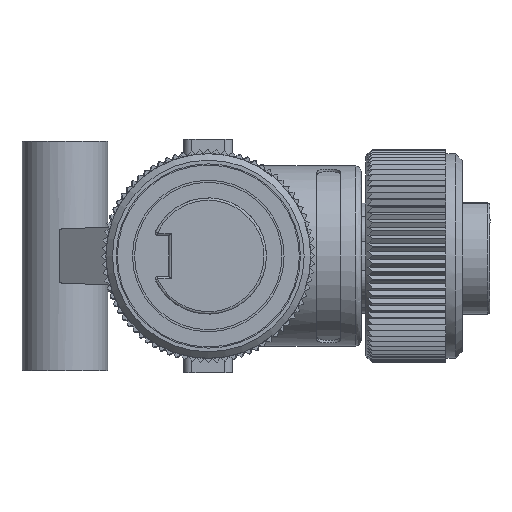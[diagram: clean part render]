
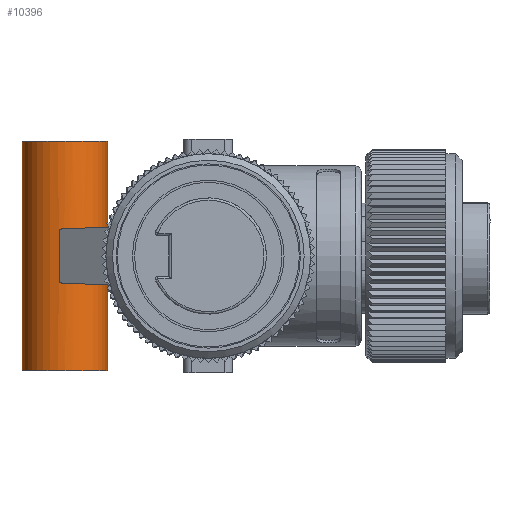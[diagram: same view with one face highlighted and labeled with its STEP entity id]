
A CAD part, left-side view. The second image highlights one B-rep face of the part: STEP entity #10396.
In plain terms, the highlighted cylindrical face has radius 5.25 mm (diameter 10.5 mm), a full revolution.
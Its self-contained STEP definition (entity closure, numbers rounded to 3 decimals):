
#433 = EDGE_CURVE ( 'NONE', #5069, #33572, #26969, .T. ) ;
#622 = LINE ( 'NONE', #12755, #17629 ) ;
#1157 = CIRCLE ( 'NONE', #11684, 5.25 ) ;
#1827 = CARTESIAN_POINT ( 'NONE',  ( -5.185, 34.623, -3.346 ) ) ;
#3115 = EDGE_CURVE ( 'NONE', #9155, #9155, #1157, .T. ) ;
#3656 = CARTESIAN_POINT ( 'NONE',  ( 5.343, 35.647, 3.32 ) ) ;
#3974 = CARTESIAN_POINT ( 'NONE',  ( 5.343, 35.647, -3.32 ) ) ;
#4315 = LINE ( 'NONE', #9709, #32376 ) ;
#4457 = CARTESIAN_POINT ( 'NONE',  ( -4.739, 33.687, -3.364 ) ) ;
#4586 = CARTESIAN_POINT ( 'NONE',  ( 5.25, 35.946, 14. ) ) ;
#5069 = VERTEX_POINT ( 'NONE', #21677 ) ;
#5255 = EDGE_CURVE ( 'NONE', #35029, #5069, #6572, .T. ) ;
#5382 = EDGE_CURVE ( 'NONE', #12392, #32562, #622, .T. ) ;
#5831 = ORIENTED_EDGE ( 'NONE', *, *, #35135, .T. ) ;
#6166 = DIRECTION ( 'NONE',  ( 0., 0., 1. ) ) ;
#6359 = CARTESIAN_POINT ( 'NONE',  ( 5.185, 34.623, 3.346 ) ) ;
#6572 =( BOUNDED_CURVE ( )  B_SPLINE_CURVE ( 3, ( #25620, #28303, #3974, #22996 ),
 .UNSPECIFIED., .F., .F. ) 
 B_SPLINE_CURVE_WITH_KNOTS ( ( 4, 4 ),
 ( 3.674, 4.258 ),
 .UNSPECIFIED. ) 
 CURVE ( )  GEOMETRIC_REPRESENTATION_ITEM ( )  RATIONAL_B_SPLINE_CURVE ( ( 1., 0.972, 0.972, 1. ) ) 
 REPRESENTATION_ITEM ( '' )  );
#7796 = VECTOR ( 'NONE', #14008, 1000. ) ;
#8517 = ORIENTED_EDGE ( 'NONE', *, *, #19138, .F. ) ;
#8905 = DIRECTION ( 'NONE',  ( 1., 0., 0. ) ) ;
#9155 = VERTEX_POINT ( 'NONE', #11943 ) ;
#9416 = CARTESIAN_POINT ( 'NONE',  ( -5.199, 36.673, 3.287 ) ) ;
#9709 = CARTESIAN_POINT ( 'NONE',  ( -4.739, 33.687, -3.65 ) ) ;
#10396 = ADVANCED_FACE ( 'NONE', ( #32438, #18423, #15001, #29043 ), #17552, .T. ) ;
#11339 = DIRECTION ( 'NONE',  ( 1., 0., 0. ) ) ;
#11349 =( BOUNDED_CURVE ( )  B_SPLINE_CURVE ( 3, ( #11813, #31105, #28213, #30863 ),
 .UNSPECIFIED., .F., .F. ) 
 B_SPLINE_CURVE_WITH_KNOTS ( ( 4, 4 ),
 ( 0.533, 1.116 ),
 .UNSPECIFIED. ) 
 CURVE ( )  GEOMETRIC_REPRESENTATION_ITEM ( )  RATIONAL_B_SPLINE_CURVE ( ( 1., 0.972, 0.972, 1. ) ) 
 REPRESENTATION_ITEM ( '' )  );
#11582 = DIRECTION ( 'NONE',  ( 0., 0., -1. ) ) ;
#11684 = AXIS2_PLACEMENT_3D ( 'NONE', #18037, #20782, #26238 ) ;
#11712 = EDGE_CURVE ( 'NONE', #13290, #32785, #4315, .T. ) ;
#11813 = CARTESIAN_POINT ( 'NONE',  ( -4.739, 33.687, 3.364 ) ) ;
#11829 = ORIENTED_EDGE ( 'NONE', *, *, #11712, .F. ) ;
#11943 = CARTESIAN_POINT ( 'NONE',  ( 5.25, 35.946, -14. ) ) ;
#12392 = VERTEX_POINT ( 'NONE', #9416 ) ;
#12755 = CARTESIAN_POINT ( 'NONE',  ( -5.199, 36.673, 3.65 ) ) ;
#12967 = CARTESIAN_POINT ( 'NONE',  ( -5.199, 36.673, -3.287 ) ) ;
#13290 = VERTEX_POINT ( 'NONE', #25313 ) ;
#13762 = EDGE_CURVE ( 'NONE', #33572, #33104, #22281, .T. ) ;
#13801 = EDGE_CURVE ( 'NONE', #32785, #12392, #11349, .T. ) ;
#13874 = CIRCLE ( 'NONE', #31094, 5.25 ) ;
#14008 = DIRECTION ( 'NONE',  ( 0., 0., 1. ) ) ;
#14674 = CARTESIAN_POINT ( 'NONE',  ( 4.739, 33.687, 3.364 ) ) ;
#15001 = FACE_BOUND ( 'NONE', #23516, .T. ) ;
#15736 = CARTESIAN_POINT ( 'NONE',  ( -5.343, 35.647, -3.32 ) ) ;
#17552 = CYLINDRICAL_SURFACE ( 'NONE', #21662, 5.25 ) ;
#17629 = VECTOR ( 'NONE', #17749, 1000. ) ;
#17749 = DIRECTION ( 'NONE',  ( 0., 0., -1. ) ) ;
#17970 = DIRECTION ( 'NONE',  ( 0., 0., -1. ) ) ;
#18037 = CARTESIAN_POINT ( 'NONE',  ( 0., 35.946, -14. ) ) ;
#18423 = FACE_BOUND ( 'NONE', #32659, .T. ) ;
#19089 = CARTESIAN_POINT ( 'NONE',  ( 4.739, 33.687, -3.364 ) ) ;
#19138 = EDGE_CURVE ( 'NONE', #32562, #13290, #20319, .T. ) ;
#19507 = VECTOR ( 'NONE', #17970, 1000. ) ;
#20319 =( BOUNDED_CURVE ( )  B_SPLINE_CURVE ( 3, ( #12967, #15736, #1827, #4457 ),
 .UNSPECIFIED., .F., .F. ) 
 B_SPLINE_CURVE_WITH_KNOTS ( ( 4, 4 ),
 ( 2.025, 2.609 ),
 .UNSPECIFIED. ) 
 CURVE ( )  GEOMETRIC_REPRESENTATION_ITEM ( )  RATIONAL_B_SPLINE_CURVE ( ( 1., 0.972, 0.972, 1. ) ) 
 REPRESENTATION_ITEM ( '' )  );
#20688 = CARTESIAN_POINT ( 'NONE',  ( 4.739, 33.687, 3.65 ) ) ;
#20782 = DIRECTION ( 'NONE',  ( 0., 0., 1. ) ) ;
#21662 = AXIS2_PLACEMENT_3D ( 'NONE', #28379, #6166, #8905 ) ;
#21677 = CARTESIAN_POINT ( 'NONE',  ( 5.199, 36.673, -3.287 ) ) ;
#22255 = CARTESIAN_POINT ( 'NONE',  ( 5.199, 36.673, 3.287 ) ) ;
#22281 =( BOUNDED_CURVE ( )  B_SPLINE_CURVE ( 3, ( #25526, #3656, #6359, #14674 ),
 .UNSPECIFIED., .F., .T. ) 
 B_SPLINE_CURVE_WITH_KNOTS ( ( 4, 4 ),
 ( 5.167, 5.751 ),
 .UNSPECIFIED. ) 
 CURVE ( )  GEOMETRIC_REPRESENTATION_ITEM ( )  RATIONAL_B_SPLINE_CURVE ( ( 1., 0.972, 0.972, 1. ) ) 
 REPRESENTATION_ITEM ( '' )  );
#22554 = CARTESIAN_POINT ( 'NONE',  ( 4.739, 33.687, 3.364 ) ) ;
#22912 = ORIENTED_EDGE ( 'NONE', *, *, #3115, .T. ) ;
#22996 = CARTESIAN_POINT ( 'NONE',  ( 5.199, 36.673, -3.287 ) ) ;
#23252 = EDGE_LOOP ( 'NONE', ( #5831 ) ) ;
#23516 = EDGE_LOOP ( 'NONE', ( #11829, #8517, #27411, #27227 ) ) ;
#24595 = LINE ( 'NONE', #20688, #19507 ) ;
#24720 = CARTESIAN_POINT ( 'NONE',  ( 5.199, 36.673, -3.65 ) ) ;
#24949 = VERTEX_POINT ( 'NONE', #4586 ) ;
#25313 = CARTESIAN_POINT ( 'NONE',  ( -4.739, 33.687, -3.364 ) ) ;
#25526 = CARTESIAN_POINT ( 'NONE',  ( 5.199, 36.673, 3.287 ) ) ;
#25620 = CARTESIAN_POINT ( 'NONE',  ( 4.739, 33.687, -3.364 ) ) ;
#25903 = DIRECTION ( 'NONE',  ( 0., 0., 1. ) ) ;
#26238 = DIRECTION ( 'NONE',  ( 1., 0., 0. ) ) ;
#26969 = LINE ( 'NONE', #24720, #7796 ) ;
#27227 = ORIENTED_EDGE ( 'NONE', *, *, #13801, .F. ) ;
#27411 = ORIENTED_EDGE ( 'NONE', *, *, #5382, .F. ) ;
#27537 = EDGE_LOOP ( 'NONE', ( #22912 ) ) ;
#28213 = CARTESIAN_POINT ( 'NONE',  ( -5.343, 35.647, 3.32 ) ) ;
#28303 = CARTESIAN_POINT ( 'NONE',  ( 5.185, 34.623, -3.346 ) ) ;
#28379 = CARTESIAN_POINT ( 'NONE',  ( 0., 35.946, 0. ) ) ;
#29043 = FACE_OUTER_BOUND ( 'NONE', #27537, .T. ) ;
#29428 = ORIENTED_EDGE ( 'NONE', *, *, #29684, .F. ) ;
#29684 = EDGE_CURVE ( 'NONE', #33104, #35029, #24595, .T. ) ;
#29805 = CARTESIAN_POINT ( 'NONE',  ( -4.739, 33.687, 3.364 ) ) ;
#30649 = CARTESIAN_POINT ( 'NONE',  ( 0., 35.946, 14. ) ) ;
#30863 = CARTESIAN_POINT ( 'NONE',  ( -5.199, 36.673, 3.287 ) ) ;
#31094 = AXIS2_PLACEMENT_3D ( 'NONE', #30649, #11582, #11339 ) ;
#31105 = CARTESIAN_POINT ( 'NONE',  ( -5.185, 34.623, 3.346 ) ) ;
#31509 = CARTESIAN_POINT ( 'NONE',  ( -5.199, 36.673, -3.287 ) ) ;
#32166 = ORIENTED_EDGE ( 'NONE', *, *, #433, .F. ) ;
#32376 = VECTOR ( 'NONE', #25903, 1000. ) ;
#32438 = FACE_OUTER_BOUND ( 'NONE', #23252, .T. ) ;
#32562 = VERTEX_POINT ( 'NONE', #31509 ) ;
#32659 = EDGE_LOOP ( 'NONE', ( #29428, #34557, #32166, #33269 ) ) ;
#32785 = VERTEX_POINT ( 'NONE', #29805 ) ;
#33104 = VERTEX_POINT ( 'NONE', #22554 ) ;
#33269 = ORIENTED_EDGE ( 'NONE', *, *, #5255, .F. ) ;
#33572 = VERTEX_POINT ( 'NONE', #22255 ) ;
#34557 = ORIENTED_EDGE ( 'NONE', *, *, #13762, .F. ) ;
#35029 = VERTEX_POINT ( 'NONE', #19089 ) ;
#35135 = EDGE_CURVE ( 'NONE', #24949, #24949, #13874, .T. ) ;
